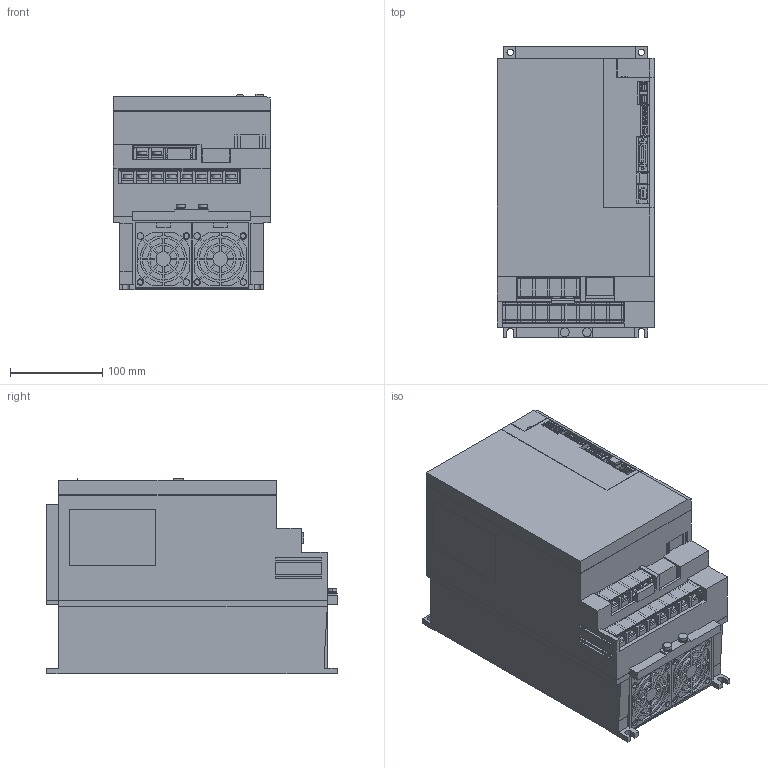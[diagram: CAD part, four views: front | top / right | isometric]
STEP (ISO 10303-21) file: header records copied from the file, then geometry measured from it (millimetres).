
FILE_DESCRIPTION (( 'STEP AP203' ), '1' );
FILE_NAME ('sgd7s_550a20a.STEP', '2015-09-18T08:32:14', ( '匠エンジニアリング山之内' ), ( 'TAKUMI-Engniaring' ), 'SwSTEP 2.0', 'SolidWorks 2006303', '' );
FILE_SCHEMA (( 'CONFIG_CONTROL_DESIGN' ));
Products named in the file (8): sgd7s_550a20a_cover3; sgd7s_550a20a_cover4; sgd7s_550a20a; sgd7s_550a20a_base; sgd7s_550a20a_cover; sgd7s_550a20a_cover2; sgd7s_550a20a_connector; sgd7s_550a20a_terminal
Assembly tree (8 placements, depth 2):
  sgd7s_550a20a
    sgd7s_550a20a_cover
    sgd7s_550a20a_cover2  x2
    sgd7s_550a20a_cover4
    sgd7s_550a20a_terminal
    sgd7s_550a20a_cover3
    sgd7s_550a20a_connector
    sgd7s_550a20a_base
Bounding box: 170.5 x 315 x 212.29 mm (x, y, z)
Volume: 8059720.9 mm3; surface area: 895760.4 mm2
Topology: 8 solids, 8 shells, 2169 faces, 5773 edges, 3820 vertices
Faces by surface type: plane 1829, cylinder 335, cone 4, sphere 1
Entity records: 66873 total; most frequent: CARTESIAN_POINT 11662, ORIENTED_EDGE 11438, DIRECTION 10721, EDGE_CURVE 5719, VECTOR 5035, LINE 5035, VERTEX_POINT 3784, AXIS2_PLACEMENT_3D 2843
